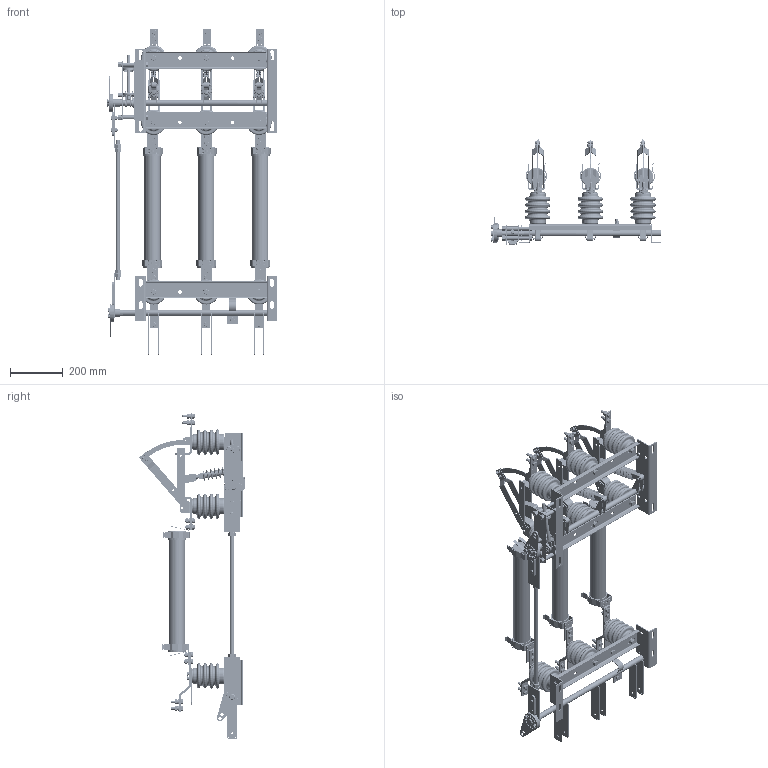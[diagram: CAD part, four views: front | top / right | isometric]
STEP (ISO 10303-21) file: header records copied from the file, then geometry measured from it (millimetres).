
FILE_DESCRIPTION (( 'STEP AP214' ), '1' );
FILE_NAME ('Âûêëþ÷àòåëü íàãðóçêè ÂÍÀ-10400-Ï-ç-ÏÒ1.2-È2-ÓÕË2-ÊÝÀÇ.STEP', '2023-02-01T06:44:30', ( '' ), ( '' ), 'SwSTEP 2.0', 'SolidWorks 2018', '' );
FILE_SCHEMA (( 'AUTOMOTIVE_DESIGN' ));
Length unit declared in the file: millimetre
Products named in the file (1): Âûêëþ÷àòåëü íàãðóçêè ÂÍÀ-10400-Ï-ç-ÏÒ1.2-È2-ÓÕË2-ÊÝÀÇ
Bounding box: 647.2 x 402.34 x 1237.98 mm (x, y, z)
Surface area: 2333488.7 mm2
Topology: 58 solids, 59 shells, 5997 faces, 15096 edges, 9514 vertices
Faces by surface type: plane 2968, cylinder 2011, cone 722, torus 290, bspline 6
Full cylindrical faces by diameter (mm): 4.2 x24, 8.2 x2, 8.993 x5, 9 x6, 9.5 x18, 10.8 x26, 12.35 x14, 12.704 x1, 12.915 x1, 12.977 x1, 13.051 x3, 14.508 x4, 15.19 x4, 16 x1, 16.205 x4, 17.1 x3, 20 x12, 22 x3, 70 x7
Entity records: 219639 total; most frequent: CARTESIAN_POINT 75673, DIRECTION 30368, ORIENTED_EDGE 29766, EDGE_CURVE 14883, AXIS2_PLACEMENT_3D 11570, VERTEX_POINT 9436, VECTOR 7228, LINE 7228
